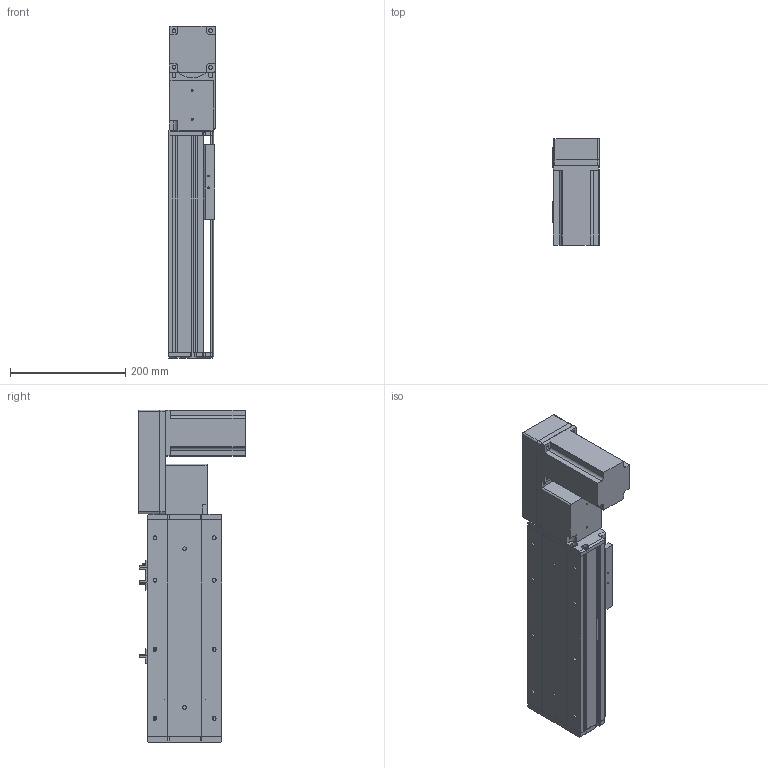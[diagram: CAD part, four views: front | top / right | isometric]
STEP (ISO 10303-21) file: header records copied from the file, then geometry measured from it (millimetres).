
FILE_DESCRIPTION (( 'STEP AP214' ), '1' );
FILE_NAME ('KSD130B-S150-MRB-CM.STEP', '2019-11-15T03:10:37', ( '微软用户' ), ( '微软中国' ), 'SwSTEP 2.0', 'SolidWorks 2014', '' );
FILE_SCHEMA (( 'AUTOMOTIVE_DESIGN' ));
Length unit declared in the file: millimetre
Products named in the file (12): 覜茼え100遵圉猾敕; U倰嫖萇EEㄜSX672; 130宽盖板半封闭同步带-150行程; 130宽马达安装板同步带右-改镜向_默认<按加工>; 130宽马达安装板同步带半封闭; 130宽同步带安装座半封闭; 130宽端盖同步带半封闭; 130宽底板半封闭同步带-150行程; KSD130B-S150-MRB-CM; 台达ECMA－C20807AS伺服电机; 130宽模组保护罩上下左右折-同步带; 130宽模组马达安装板连板左右折同步带
Assembly tree (13 placements, depth 2):
  KSD130B-S150-MRB-CM
    130宽底板半封闭同步带-150行程
    130宽端盖同步带半封闭
    130宽同步带安装座半封闭
    130宽马达安装板同步带半封闭
    130宽马达安装板同步带右-改镜向_默认<按加工>
    130宽盖板半封闭同步带-150行程
    U倰嫖萇EEㄜSX672  x3
    覜茼え100遵圉猾敕
    130宽模组马达安装板连板左右折同步带
    130宽模组保护罩上下左右折-同步带
    台达ECMA－C20807AS伺服电机
Bounding box: 81 x 184.8 x 577 mm (x, y, z)
Volume: 2694872.2 mm3; surface area: 658215.9 mm2
Topology: 14 solids, 14 shells, 1329 faces, 3701 edges, 2391 vertices
Faces by surface type: cylinder 612, plane 598, cone 119
Entity records: 41647 total; most frequent: CARTESIAN_POINT 7268, DIRECTION 6427, ORIENTED_EDGE 6150, EDGE_CURVE 3075, AXIS2_PLACEMENT_3D 2310, VERTEX_POINT 2015, LINE 1807, VECTOR 1807
